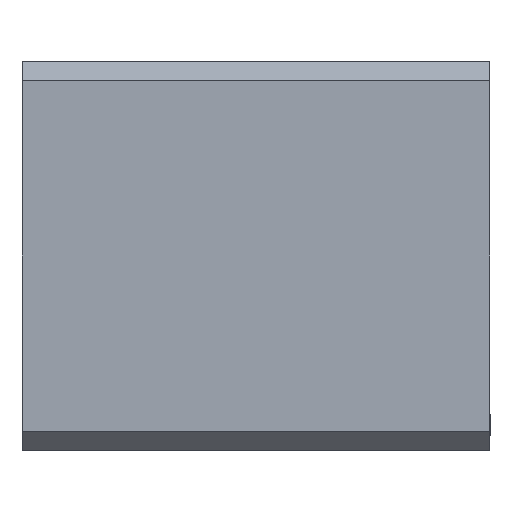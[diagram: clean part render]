
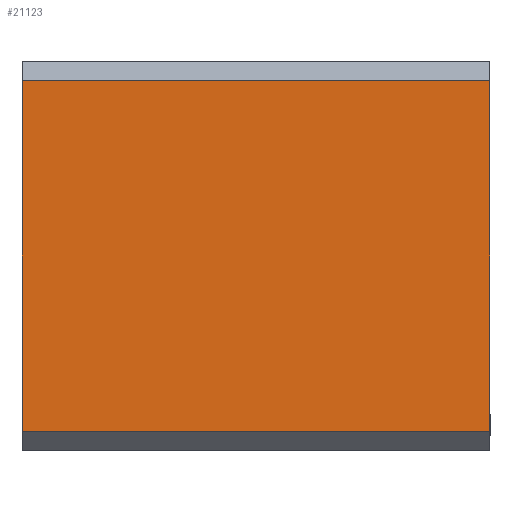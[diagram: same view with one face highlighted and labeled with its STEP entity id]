
A CAD part, front view. The second image highlights one B-rep face of the part: STEP entity #21123.
In plain terms, the highlighted planar face has unit normal (0, -1, 0).
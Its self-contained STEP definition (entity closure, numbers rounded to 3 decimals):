
#48 = DIRECTION ( 'NONE',  ( 0., 0., 1. ) ) ;
#127 = VERTEX_POINT ( 'NONE', #23675 ) ;
#1267 = FACE_OUTER_BOUND ( 'NONE', #23612, .T. ) ;
#1407 = CARTESIAN_POINT ( 'NONE',  ( -36., -30., 27. ) ) ;
#2148 = PLANE ( 'NONE',  #18465 ) ;
#2638 = LINE ( 'NONE', #1407, #19078 ) ;
#2699 = CARTESIAN_POINT ( 'NONE',  ( 36., -30., 30. ) ) ;
#3357 = ORIENTED_EDGE ( 'NONE', *, *, #4856, .T. ) ;
#4131 = EDGE_CURVE ( 'NONE', #127, #6370, #7444, .T. ) ;
#4784 = DIRECTION ( 'NONE',  ( 0., 0., -1. ) ) ;
#4856 = EDGE_CURVE ( 'NONE', #6370, #20634, #6952, .T. ) ;
#5854 = VERTEX_POINT ( 'NONE', #19170 ) ;
#6370 = VERTEX_POINT ( 'NONE', #23694 ) ;
#6761 = EDGE_CURVE ( 'NONE', #127, #5854, #2638, .T. ) ;
#6952 = LINE ( 'NONE', #26844, #12619 ) ;
#7077 = EDGE_CURVE ( 'NONE', #5854, #20634, #13890, .T. ) ;
#7167 = CARTESIAN_POINT ( 'NONE',  ( -36., -30., 30. ) ) ;
#7444 = LINE ( 'NONE', #7167, #13082 ) ;
#9872 = ORIENTED_EDGE ( 'NONE', *, *, #7077, .F. ) ;
#11525 = ORIENTED_EDGE ( 'NONE', *, *, #6761, .F. ) ;
#12619 = VECTOR ( 'NONE', #16241, 1000. ) ;
#12947 = DIRECTION ( 'NONE',  ( 0., 1., 0. ) ) ;
#13082 = VECTOR ( 'NONE', #19954, 1000. ) ;
#13890 = LINE ( 'NONE', #2699, #25311 ) ;
#16241 = DIRECTION ( 'NONE',  ( 1., 0., 0. ) ) ;
#18465 = AXIS2_PLACEMENT_3D ( 'NONE', #25816, #12947, #48 ) ;
#19078 = VECTOR ( 'NONE', #27095, 1000. ) ;
#19170 = CARTESIAN_POINT ( 'NONE',  ( 36., -30., 27. ) ) ;
#19954 = DIRECTION ( 'NONE',  ( 0., 0., -1. ) ) ;
#20097 = ORIENTED_EDGE ( 'NONE', *, *, #4131, .T. ) ;
#20634 = VERTEX_POINT ( 'NONE', #23286 ) ;
#21123 = ADVANCED_FACE ( 'NONE', ( #1267 ), #2148, .F. ) ;
#23286 = CARTESIAN_POINT ( 'NONE',  ( 36., -30., -27. ) ) ;
#23612 = EDGE_LOOP ( 'NONE', ( #20097, #3357, #9872, #11525 ) ) ;
#23675 = CARTESIAN_POINT ( 'NONE',  ( -36., -30., 27. ) ) ;
#23694 = CARTESIAN_POINT ( 'NONE',  ( -36., -30., -27. ) ) ;
#25311 = VECTOR ( 'NONE', #4784, 1000. ) ;
#25816 = CARTESIAN_POINT ( 'NONE',  ( 36., -30., 30. ) ) ;
#26844 = CARTESIAN_POINT ( 'NONE',  ( -36., -30., -27. ) ) ;
#27095 = DIRECTION ( 'NONE',  ( 1., 0., 0. ) ) ;
